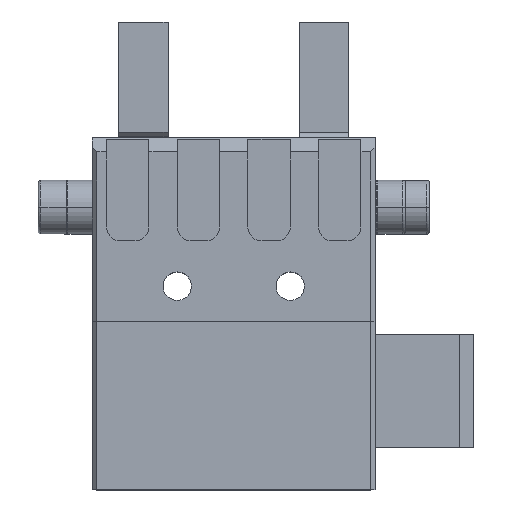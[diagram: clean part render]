
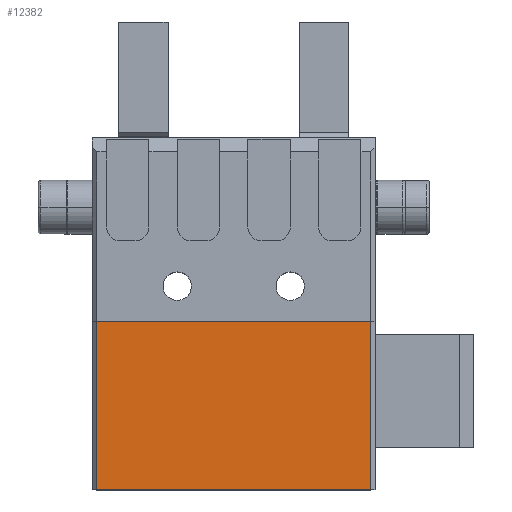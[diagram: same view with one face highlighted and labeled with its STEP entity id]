
A CAD part, top view. The second image highlights one B-rep face of the part: STEP entity #12382.
In plain terms, the highlighted planar face has unit normal (0, 0, 1) as drawn and (0, 0, -1) by its records, which use the part's own axes.
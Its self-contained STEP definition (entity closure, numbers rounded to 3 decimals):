
#54 = CARTESIAN_POINT ( 'NONE',  ( -9.7, 11.9, -8. ) ) ;
#210 = VECTOR ( 'NONE', #5493, 1000. ) ;
#753 = ORIENTED_EDGE ( 'NONE', *, *, #4157, .F. ) ;
#1427 = EDGE_LOOP ( 'NONE', ( #8027, #753, #3690, #6779 ) ) ;
#1813 = EDGE_CURVE ( 'NONE', #7885, #10841, #10177, .T. ) ;
#2079 = CARTESIAN_POINT ( 'NONE',  ( 9.7, 0., -8. ) ) ;
#2115 = VECTOR ( 'NONE', #4408, 1000. ) ;
#3430 = VECTOR ( 'NONE', #7741, 1000. ) ;
#3690 = ORIENTED_EDGE ( 'NONE', *, *, #1813, .F. ) ;
#4157 = EDGE_CURVE ( 'NONE', #10841, #8690, #8750, .T. ) ;
#4408 = DIRECTION ( 'NONE',  ( 0., -1., 0. ) ) ;
#4748 = LINE ( 'NONE', #12321, #2115 ) ;
#5387 = VECTOR ( 'NONE', #12729, 1000. ) ;
#5493 = DIRECTION ( 'NONE',  ( -1., 0., 0. ) ) ;
#6147 = AXIS2_PLACEMENT_3D ( 'NONE', #12995, #6291, #14219 ) ;
#6223 = LINE ( 'NONE', #2079, #210 ) ;
#6291 = DIRECTION ( 'NONE',  ( 0., 0., 1. ) ) ;
#6542 = EDGE_CURVE ( 'NONE', #13696, #8690, #6223, .T. ) ;
#6656 = CARTESIAN_POINT ( 'NONE',  ( 9.7, 0., -8. ) ) ;
#6779 = ORIENTED_EDGE ( 'NONE', *, *, #7163, .T. ) ;
#7163 = EDGE_CURVE ( 'NONE', #7885, #13696, #4748, .T. ) ;
#7296 = CARTESIAN_POINT ( 'NONE',  ( -9.7, 0., -8. ) ) ;
#7710 = CARTESIAN_POINT ( 'NONE',  ( 9.7, 11.9, -8. ) ) ;
#7741 = DIRECTION ( 'NONE',  ( -1., 0., 0. ) ) ;
#7885 = VERTEX_POINT ( 'NONE', #11431 ) ;
#8027 = ORIENTED_EDGE ( 'NONE', *, *, #6542, .T. ) ;
#8140 = CARTESIAN_POINT ( 'NONE',  ( -9.7, 11.9, -8. ) ) ;
#8690 = VERTEX_POINT ( 'NONE', #7296 ) ;
#8750 = LINE ( 'NONE', #8140, #5387 ) ;
#10177 = LINE ( 'NONE', #7710, #3430 ) ;
#10841 = VERTEX_POINT ( 'NONE', #54 ) ;
#11051 = FACE_OUTER_BOUND ( 'NONE', #1427, .T. ) ;
#11431 = CARTESIAN_POINT ( 'NONE',  ( 9.7, 11.9, -8. ) ) ;
#12321 = CARTESIAN_POINT ( 'NONE',  ( 9.7, 11.9, -8. ) ) ;
#12382 = ADVANCED_FACE ( 'NONE', ( #11051 ), #13051, .F. ) ;
#12729 = DIRECTION ( 'NONE',  ( 0., -1., 0. ) ) ;
#12995 = CARTESIAN_POINT ( 'NONE',  ( 9.7, 11.9, -8. ) ) ;
#13051 = PLANE ( 'NONE',  #6147 ) ;
#13696 = VERTEX_POINT ( 'NONE', #6656 ) ;
#14219 = DIRECTION ( 'NONE',  ( 1., 0., 0. ) ) ;
